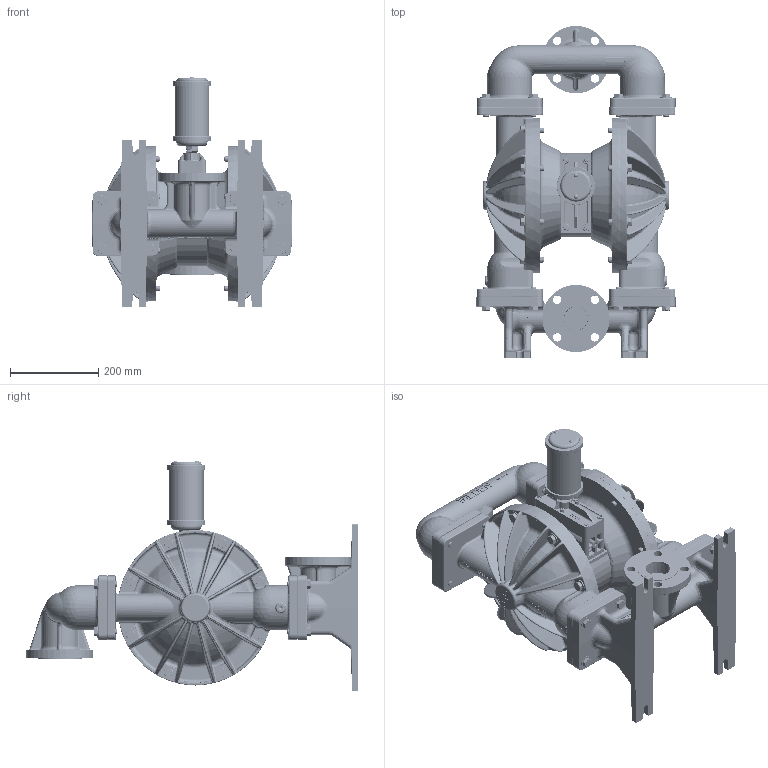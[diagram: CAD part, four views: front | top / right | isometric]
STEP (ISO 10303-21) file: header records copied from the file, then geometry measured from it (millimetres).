
FILE_DESCRIPTION (( 'STEP AP203' ), '1' );
FILE_NAME ('P830_ALUM_TOP.STEP', '2022-07-05T07:40:41', ( '' ), ( '' ), 'SwSTEP 2.0', 'SolidWorks 2019', '' );
FILE_SCHEMA (( 'CONFIG_CONTROL_DESIGN' ));
Products named in the file (1): P830_ALUM_TOP
Bounding box: 452.44 x 751.59 x 522.1 mm (x, y, z)
Volume: 29814351.2 mm3; surface area: 1644671.5 mm2
Topology: 1 solids, 1 shells, 6841 faces, 17504 edges, 10943 vertices
Faces by surface type: plane 3687, bspline 1258, cylinder 1036, cone 394, torus 337, sphere 129
Entity records: 437302 total; most frequent: CARTESIAN_POINT 283005, ORIENTED_EDGE 34924, DIRECTION 27986, EDGE_CURVE 17462, VERTEX_POINT 10934, AXIS2_PLACEMENT_3D 9504, VECTOR 8978, LINE 8978
